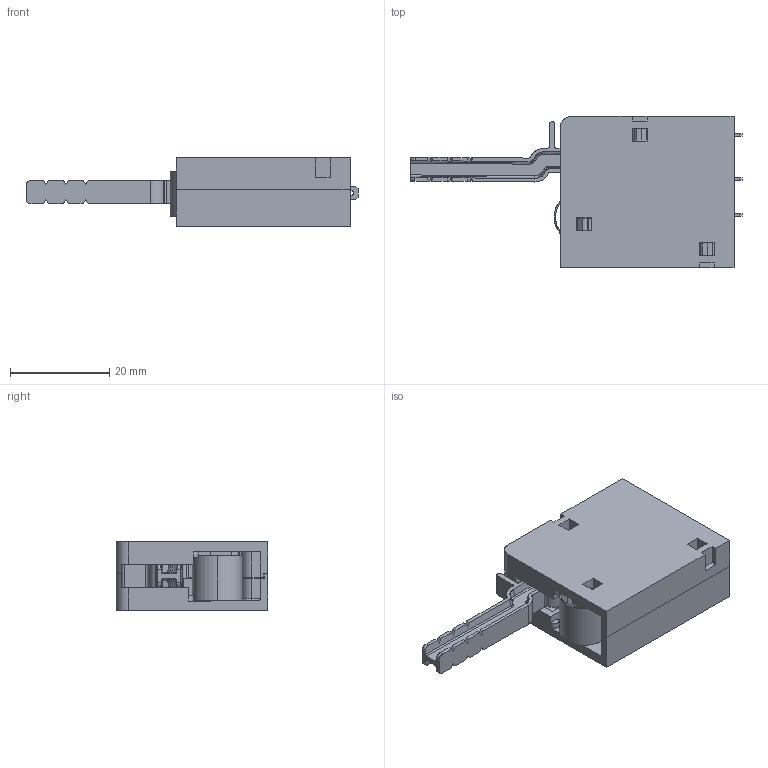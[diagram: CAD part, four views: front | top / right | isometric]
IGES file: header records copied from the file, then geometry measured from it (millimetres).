
Start section: SolidWorks IGES file using analytic representation for surfaces
Global section: file name: U:\14_RD\05_Technical_office\04_Office\Hrdinova\3D modely - IGES\Varius - Ostatní\VL50.IGS; native system: SolidWorks 2011; preprocessor: SolidWorks 2011; author: adhrja3; date: 170621.073028; units: millimetre
Bounding box: 66.78 x 30.5 x 13.8 mm (x, y, z)
Surface area: 12189.3 mm2 (no closed solid volume)
Topology: 0 solids, 0 shells, 627 faces, 5629 edges, 5629 vertices
Faces by surface type: bspline 426, revolution 201
